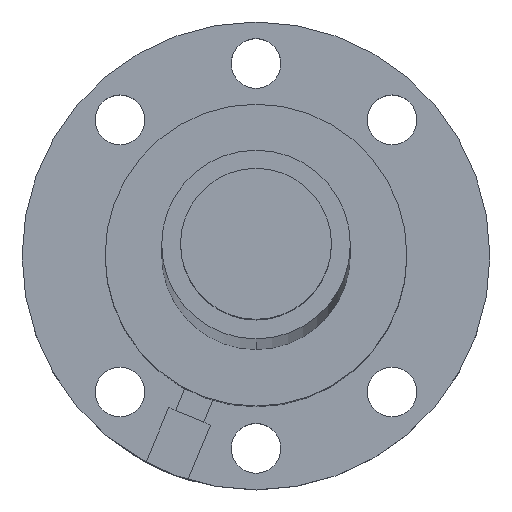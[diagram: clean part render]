
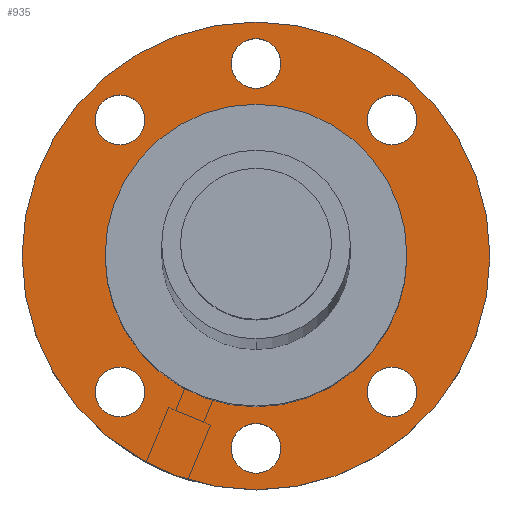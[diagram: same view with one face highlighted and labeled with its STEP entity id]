
A CAD part, top view. The second image highlights one B-rep face of the part: STEP entity #935.
In plain terms, the highlighted planar face has unit normal (0, 0, 1).
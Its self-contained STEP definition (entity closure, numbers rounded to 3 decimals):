
#122=CARTESIAN_POINT('',(0.,0.,10.));
#123=DIRECTION('',(0.,0.,1.));
#124=DIRECTION('',(1.,0.,0.));
#125=AXIS2_PLACEMENT_3D('',#122,#123,#124);
#127=CARTESIAN_POINT('',(0.,0.,10.));
#128=DIRECTION('',(0.,0.,1.));
#129=DIRECTION('',(-1.,0.,0.));
#130=AXIS2_PLACEMENT_3D('',#127,#128,#129);
#132=CARTESIAN_POINT('',(0.,0.,10.));
#133=DIRECTION('',(0.,0.,-1.));
#134=DIRECTION('',(1.,0.,0.));
#135=AXIS2_PLACEMENT_3D('',#132,#133,#134);
#137=CARTESIAN_POINT('',(0.,0.,10.));
#138=DIRECTION('',(0.,0.,-1.));
#139=DIRECTION('',(-1.,0.,0.));
#140=AXIS2_PLACEMENT_3D('',#137,#138,#139);
#142=CARTESIAN_POINT('',(0.,25.5,10.));
#143=DIRECTION('',(0.,0.,-1.));
#144=DIRECTION('',(1.,0.,0.));
#145=AXIS2_PLACEMENT_3D('',#142,#143,#144);
#147=CARTESIAN_POINT('',(0.,25.5,10.));
#148=DIRECTION('',(0.,0.,-1.));
#149=DIRECTION('',(-1.,0.,0.));
#150=AXIS2_PLACEMENT_3D('',#147,#148,#149);
#152=CARTESIAN_POINT('',(18.031,18.031,10.));
#153=DIRECTION('',(0.,0.,-1.));
#154=DIRECTION('',(-1.,0.,0.));
#155=AXIS2_PLACEMENT_3D('',#152,#153,#154);
#157=CARTESIAN_POINT('',(18.031,18.031,10.));
#158=DIRECTION('',(0.,0.,-1.));
#159=DIRECTION('',(1.,0.,0.));
#160=AXIS2_PLACEMENT_3D('',#157,#158,#159);
#162=CARTESIAN_POINT('',(-18.031,-18.031,10.));
#163=DIRECTION('',(0.,0.,-1.));
#164=DIRECTION('',(1.,0.,0.));
#165=AXIS2_PLACEMENT_3D('',#162,#163,#164);
#167=CARTESIAN_POINT('',(-18.031,-18.031,10.));
#168=DIRECTION('',(0.,0.,-1.));
#169=DIRECTION('',(-1.,0.,0.));
#170=AXIS2_PLACEMENT_3D('',#167,#168,#169);
#172=CARTESIAN_POINT('',(-18.031,18.031,10.));
#173=DIRECTION('',(0.,0.,-1.));
#174=DIRECTION('',(1.,0.,0.));
#175=AXIS2_PLACEMENT_3D('',#172,#173,#174);
#177=CARTESIAN_POINT('',(-18.031,18.031,10.));
#178=DIRECTION('',(0.,0.,-1.));
#179=DIRECTION('',(-1.,0.,0.));
#180=AXIS2_PLACEMENT_3D('',#177,#178,#179);
#182=CARTESIAN_POINT('',(18.031,-18.031,10.));
#183=DIRECTION('',(0.,0.,-1.));
#184=DIRECTION('',(-1.,0.,0.));
#185=AXIS2_PLACEMENT_3D('',#182,#183,#184);
#187=CARTESIAN_POINT('',(18.031,-18.031,10.));
#188=DIRECTION('',(0.,0.,-1.));
#189=DIRECTION('',(1.,0.,0.));
#190=AXIS2_PLACEMENT_3D('',#187,#188,#189);
#192=CARTESIAN_POINT('',(0.,-25.5,10.));
#193=DIRECTION('',(0.,0.,-1.));
#194=DIRECTION('',(1.,0.,0.));
#195=AXIS2_PLACEMENT_3D('',#192,#193,#194);
#197=CARTESIAN_POINT('',(0.,-25.5,10.));
#198=DIRECTION('',(0.,0.,-1.));
#199=DIRECTION('',(-1.,0.,0.));
#200=AXIS2_PLACEMENT_3D('',#197,#198,#199);
#630=CARTESIAN_POINT('',(31.,0.,10.));
#632=VERTEX_POINT('',#630);
#634=CARTESIAN_POINT('',(-31.,0.,10.));
#636=VERTEX_POINT('',#634);
#639=CARTESIAN_POINT('',(20.,0.,10.));
#641=VERTEX_POINT('',#639);
#643=CARTESIAN_POINT('',(-20.,0.,10.));
#645=VERTEX_POINT('',#643);
#646=CARTESIAN_POINT('',(21.331,-18.031,10.));
#648=VERTEX_POINT('',#646);
#650=CARTESIAN_POINT('',(14.731,-18.031,10.));
#652=VERTEX_POINT('',#650);
#654=CARTESIAN_POINT('',(-14.731,18.031,10.));
#656=VERTEX_POINT('',#654);
#658=CARTESIAN_POINT('',(-21.331,18.031,10.));
#660=VERTEX_POINT('',#658);
#662=CARTESIAN_POINT('',(-14.731,-18.031,10.));
#664=VERTEX_POINT('',#662);
#666=CARTESIAN_POINT('',(-21.331,-18.031,10.));
#668=VERTEX_POINT('',#666);
#670=CARTESIAN_POINT('',(21.331,18.031,10.));
#672=VERTEX_POINT('',#670);
#674=CARTESIAN_POINT('',(14.731,18.031,10.));
#676=VERTEX_POINT('',#674);
#678=CARTESIAN_POINT('',(3.3,25.5,10.));
#680=VERTEX_POINT('',#678);
#682=CARTESIAN_POINT('',(-3.3,25.5,10.));
#684=VERTEX_POINT('',#682);
#686=CARTESIAN_POINT('',(3.3,-25.5,10.));
#688=VERTEX_POINT('',#686);
#690=CARTESIAN_POINT('',(-3.3,-25.5,10.));
#692=VERTEX_POINT('',#690);
#884=CARTESIAN_POINT('',(0.,8.5,10.));
#885=DIRECTION('',(0.,0.,1.));
#886=DIRECTION('',(1.,0.,0.));
#887=AXIS2_PLACEMENT_3D('',#884,#885,#886);
#888=PLANE('',#887);
#889=ORIENTED_EDGE('',*,*,#805,.F.);
#890=ORIENTED_EDGE('',*,*,#872,.F.);
#891=EDGE_LOOP('',(#889,#890));
#892=FACE_OUTER_BOUND('',#891,.F.);
#894=ORIENTED_EDGE('',*,*,#893,.F.);
#896=ORIENTED_EDGE('',*,*,#895,.F.);
#897=EDGE_LOOP('',(#894,#896));
#898=FACE_BOUND('',#897,.F.);
#900=ORIENTED_EDGE('',*,*,#899,.F.);
#902=ORIENTED_EDGE('',*,*,#901,.F.);
#903=EDGE_LOOP('',(#900,#902));
#904=FACE_BOUND('',#903,.F.);
#906=ORIENTED_EDGE('',*,*,#905,.F.);
#908=ORIENTED_EDGE('',*,*,#907,.F.);
#909=EDGE_LOOP('',(#906,#908));
#910=FACE_BOUND('',#909,.F.);
#912=ORIENTED_EDGE('',*,*,#911,.F.);
#914=ORIENTED_EDGE('',*,*,#913,.F.);
#915=EDGE_LOOP('',(#912,#914));
#916=FACE_BOUND('',#915,.F.);
#918=ORIENTED_EDGE('',*,*,#917,.F.);
#920=ORIENTED_EDGE('',*,*,#919,.F.);
#921=EDGE_LOOP('',(#918,#920));
#922=FACE_BOUND('',#921,.F.);
#924=ORIENTED_EDGE('',*,*,#923,.F.);
#926=ORIENTED_EDGE('',*,*,#925,.F.);
#927=EDGE_LOOP('',(#924,#926));
#928=FACE_BOUND('',#927,.F.);
#930=ORIENTED_EDGE('',*,*,#929,.F.);
#932=ORIENTED_EDGE('',*,*,#931,.F.);
#933=EDGE_LOOP('',(#930,#932));
#934=FACE_BOUND('',#933,.F.);
#935=ADVANCED_FACE('',(#892,#898,#904,#910,#916,#922,#928,#934),#888,.T.);
#126=CIRCLE('',#125,31.);
#131=CIRCLE('',#130,31.);
#136=CIRCLE('',#135,20.);
#141=CIRCLE('',#140,20.);
#146=CIRCLE('',#145,3.3);
#151=CIRCLE('',#150,3.3);
#156=CIRCLE('',#155,3.3);
#161=CIRCLE('',#160,3.3);
#166=CIRCLE('',#165,3.3);
#171=CIRCLE('',#170,3.3);
#176=CIRCLE('',#175,3.3);
#181=CIRCLE('',#180,3.3);
#186=CIRCLE('',#185,3.3);
#191=CIRCLE('',#190,3.3);
#196=CIRCLE('',#195,3.3);
#201=CIRCLE('',#200,3.3);
#805=EDGE_CURVE('',#632,#636,#126,.T.);
#872=EDGE_CURVE('',#636,#632,#131,.T.);
#893=EDGE_CURVE('',#641,#645,#136,.T.);
#895=EDGE_CURVE('',#645,#641,#141,.T.);
#899=EDGE_CURVE('',#680,#684,#146,.T.);
#901=EDGE_CURVE('',#684,#680,#151,.T.);
#905=EDGE_CURVE('',#676,#672,#156,.T.);
#907=EDGE_CURVE('',#672,#676,#161,.T.);
#911=EDGE_CURVE('',#664,#668,#166,.T.);
#913=EDGE_CURVE('',#668,#664,#171,.T.);
#917=EDGE_CURVE('',#656,#660,#176,.T.);
#919=EDGE_CURVE('',#660,#656,#181,.T.);
#923=EDGE_CURVE('',#652,#648,#186,.T.);
#925=EDGE_CURVE('',#648,#652,#191,.T.);
#929=EDGE_CURVE('',#688,#692,#196,.T.);
#931=EDGE_CURVE('',#692,#688,#201,.T.);
